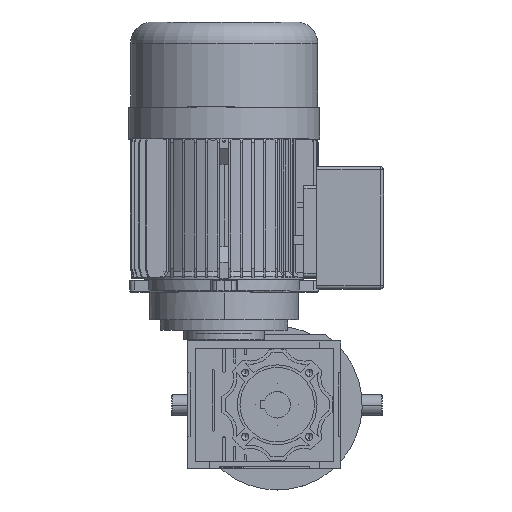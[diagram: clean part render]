
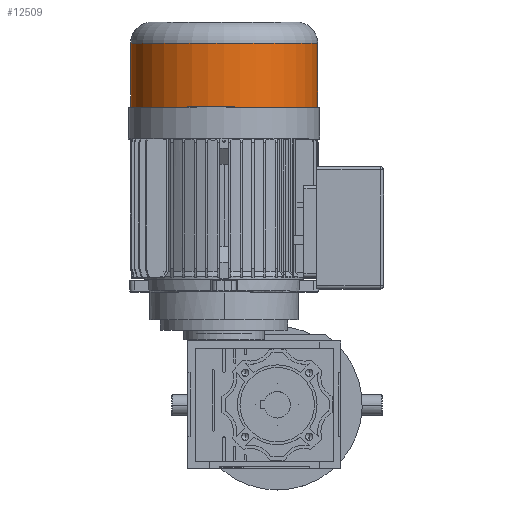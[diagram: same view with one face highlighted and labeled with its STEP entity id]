
A CAD part, top view. The second image highlights one B-rep face of the part: STEP entity #12509.
In plain terms, the highlighted cylindrical face has radius 88 mm (diameter 176 mm), a partial arc.
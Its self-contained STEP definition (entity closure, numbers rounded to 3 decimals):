
#1492 = EDGE_CURVE ( 'NONE', #6868, #15844, #31365, .T. ) ;
#3907 = CARTESIAN_POINT ( 'NONE',  ( 0., 0., -310. ) ) ;
#4010 = LINE ( 'NONE', #19661, #14441 ) ;
#4334 = CARTESIAN_POINT ( 'NONE',  ( 0., 88., -330. ) ) ;
#6868 = VERTEX_POINT ( 'NONE', #18144 ) ;
#8408 = DIRECTION ( 'NONE',  ( 0., 1., 0. ) ) ;
#12509 = ADVANCED_FACE ( 'NONE', ( #18173 ), #24465, .T. ) ;
#12586 = VECTOR ( 'NONE', #39840, 1000. ) ;
#13540 = CARTESIAN_POINT ( 'NONE',  ( 0., 0., -330. ) ) ;
#13966 = LINE ( 'NONE', #4334, #12586 ) ;
#14441 = VECTOR ( 'NONE', #28504, 1000. ) ;
#15130 = DIRECTION ( 'NONE',  ( 0., 0., -1. ) ) ;
#15844 = VERTEX_POINT ( 'NONE', #45421 ) ;
#15967 = EDGE_CURVE ( 'NONE', #15844, #20508, #4010, .T. ) ;
#16280 = AXIS2_PLACEMENT_3D ( 'NONE', #41723, #15130, #46158 ) ;
#18144 = CARTESIAN_POINT ( 'NONE',  ( 0., 88., -310. ) ) ;
#18173 = FACE_OUTER_BOUND ( 'NONE', #54452, .T. ) ;
#19661 = CARTESIAN_POINT ( 'NONE',  ( 0., -88., -330. ) ) ;
#20508 = VERTEX_POINT ( 'NONE', #26383 ) ;
#23274 = VERTEX_POINT ( 'NONE', #47309 ) ;
#24465 = CYLINDRICAL_SURFACE ( 'NONE', #36485, 88. ) ;
#24701 = EDGE_CURVE ( 'NONE', #20508, #23274, #30906, .T. ) ;
#26383 = CARTESIAN_POINT ( 'NONE',  ( 0., -88., -250. ) ) ;
#26887 = DIRECTION ( 'NONE',  ( 0., 0., 1. ) ) ;
#27451 = EDGE_CURVE ( 'NONE', #6868, #23274, #13966, .T. ) ;
#28504 = DIRECTION ( 'NONE',  ( 0., 0., 1. ) ) ;
#30438 = ORIENTED_EDGE ( 'NONE', *, *, #1492, .T. ) ;
#30906 = CIRCLE ( 'NONE', #16280, 88. ) ;
#31365 = CIRCLE ( 'NONE', #38077, 88. ) ;
#34949 = DIRECTION ( 'NONE',  ( 0., 0., 1. ) ) ;
#36485 = AXIS2_PLACEMENT_3D ( 'NONE', #13540, #26887, #44775 ) ;
#38077 = AXIS2_PLACEMENT_3D ( 'NONE', #3907, #34949, #8408 ) ;
#39009 = ORIENTED_EDGE ( 'NONE', *, *, #24701, .T. ) ;
#39840 = DIRECTION ( 'NONE',  ( 0., 0., 1. ) ) ;
#41723 = CARTESIAN_POINT ( 'NONE',  ( 0., 0., -250. ) ) ;
#44775 = DIRECTION ( 'NONE',  ( 0., -1., 0. ) ) ;
#45421 = CARTESIAN_POINT ( 'NONE',  ( 0., -88., -310. ) ) ;
#46158 = DIRECTION ( 'NONE',  ( 0., 1., 0. ) ) ;
#47309 = CARTESIAN_POINT ( 'NONE',  ( 0., 88., -250. ) ) ;
#50075 = ORIENTED_EDGE ( 'NONE', *, *, #15967, .T. ) ;
#54452 = EDGE_LOOP ( 'NONE', ( #56111, #30438, #50075, #39009 ) ) ;
#56111 = ORIENTED_EDGE ( 'NONE', *, *, #27451, .F. ) ;
